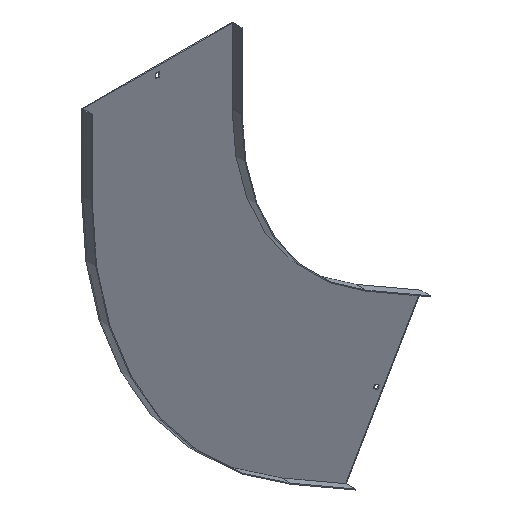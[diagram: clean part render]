
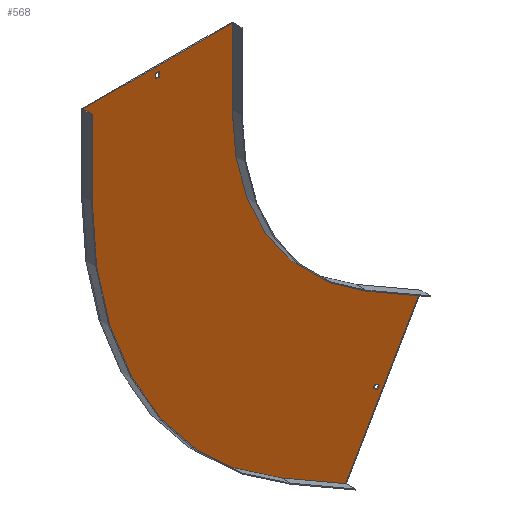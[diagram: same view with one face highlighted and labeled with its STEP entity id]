
A CAD part, isometric view. The second image highlights one B-rep face of the part: STEP entity #568.
In plain terms, the highlighted planar face has unit normal (0, -1, 0).
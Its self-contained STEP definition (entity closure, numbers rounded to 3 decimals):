
#1 = VECTOR ( 'NONE', #114, 1000. ) ;
#10 = DIRECTION ( 'NONE',  ( 0.5, 0., 0.866 ) ) ;
#14 = CARTESIAN_POINT ( 'NONE',  ( -323.375, -1.5, -560.102 ) ) ;
#19 = VECTOR ( 'NONE', #569, 1000. ) ;
#25 = AXIS2_PLACEMENT_3D ( 'NONE', #76, #202, #273 ) ;
#26 = EDGE_LOOP ( 'NONE', ( #756, #211, #372, #374 ) ) ;
#32 = VECTOR ( 'NONE', #814, 1000. ) ;
#44 = VERTEX_POINT ( 'NONE', #716 ) ;
#56 = ORIENTED_EDGE ( 'NONE', *, *, #774, .F. ) ;
#64 = CARTESIAN_POINT ( 'NONE',  ( -801.5, -1.5, 150. ) ) ;
#68 = DIRECTION ( 'NONE',  ( 1., 0., 0. ) ) ;
#72 = PLANE ( 'NONE',  #25 ) ;
#74 = CARTESIAN_POINT ( 'NONE',  ( 0., -1.5, 138. ) ) ;
#75 = VERTEX_POINT ( 'NONE', #513 ) ;
#76 = CARTESIAN_POINT ( 'NONE',  ( 0., -1.5, 0. ) ) ;
#81 = LINE ( 'NONE', #85, #396 ) ;
#83 = DIRECTION ( 'NONE',  ( 0., 0., -1. ) ) ;
#85 = CARTESIAN_POINT ( 'NONE',  ( 0., -1.5, 129. ) ) ;
#87 = EDGE_CURVE ( 'NONE', #648, #278, #783, .T. ) ;
#90 = CARTESIAN_POINT ( 'NONE',  ( -270.096, -1.5, -767.82 ) ) ;
#94 = EDGE_CURVE ( 'NONE', #430, #531, #181, .T. ) ;
#101 = VECTOR ( 'NONE', #436, 1000. ) ;
#111 = ORIENTED_EDGE ( 'NONE', *, *, #252, .T. ) ;
#114 = DIRECTION ( 'NONE',  ( 0.866, 0., -0.5 ) ) ;
#118 = EDGE_LOOP ( 'NONE', ( #528, #158, #125, #572, #746, #546, #56, #768 ) ) ;
#124 = CARTESIAN_POINT ( 'NONE',  ( -326.625, -1.5, -565.731 ) ) ;
#125 = ORIENTED_EDGE ( 'NONE', *, *, #309, .F. ) ;
#131 = EDGE_CURVE ( 'NONE', #148, #75, #144, .T. ) ;
#142 = DIRECTION ( 'NONE',  ( 0., 0., -1. ) ) ;
#144 = LINE ( 'NONE', #614, #190 ) ;
#146 = CARTESIAN_POINT ( 'NONE',  ( -211.658, -1.5, -624.602 ) ) ;
#148 = VERTEX_POINT ( 'NONE', #781 ) ;
#150 = VECTOR ( 'NONE', #268, 1000. ) ;
#158 = ORIENTED_EDGE ( 'NONE', *, *, #342, .F. ) ;
#168 = LINE ( 'NONE', #630, #207 ) ;
#172 = CARTESIAN_POINT ( 'NONE',  ( -646.75, -1.5, 129. ) ) ;
#178 = EDGE_CURVE ( 'NONE', #562, #430, #848, .T. ) ;
#181 = LINE ( 'NONE', #124, #1 ) ;
#190 = VECTOR ( 'NONE', #338, 1000. ) ;
#199 = CARTESIAN_POINT ( 'NONE',  ( -646.75, -1.5, 0. ) ) ;
#200 = VECTOR ( 'NONE', #745, 1000. ) ;
#202 = DIRECTION ( 'NONE',  ( 0., -1., 0. ) ) ;
#205 = FACE_OUTER_BOUND ( 'NONE', #118, .T. ) ;
#207 = VECTOR ( 'NONE', #300, 1000. ) ;
#211 = ORIENTED_EDGE ( 'NONE', *, *, #575, .F. ) ;
#230 = CARTESIAN_POINT ( 'NONE',  ( -800., -1.5, 0. ) ) ;
#245 = AXIS2_PLACEMENT_3D ( 'NONE', #673, #682, #83 ) ;
#252 = EDGE_CURVE ( 'NONE', #44, #771, #734, .T. ) ;
#260 = DIRECTION ( 'NONE',  ( 0., 0., -1. ) ) ;
#263 = VECTOR ( 'NONE', #10, 1000. ) ;
#264 = DIRECTION ( 'NONE',  ( -1., 0., 0. ) ) ;
#266 = EDGE_CURVE ( 'NONE', #771, #826, #665, .T. ) ;
#268 = DIRECTION ( 'NONE',  ( -0.866, 0., 0.5 ) ) ;
#269 = LINE ( 'NONE', #90, #200 ) ;
#273 = DIRECTION ( 'NONE',  ( 0., 0., -1. ) ) ;
#278 = VERTEX_POINT ( 'NONE', #541 ) ;
#300 = DIRECTION ( 'NONE',  ( 0., 0., -1. ) ) ;
#309 = EDGE_CURVE ( 'NONE', #369, #327, #520, .T. ) ;
#318 = VECTOR ( 'NONE', #452, 1000. ) ;
#325 = FACE_BOUND ( 'NONE', #713, .T. ) ;
#327 = VERTEX_POINT ( 'NONE', #230 ) ;
#335 = LINE ( 'NONE', #612, #263 ) ;
#338 = DIRECTION ( 'NONE',  ( -0.5, 0., -0.866 ) ) ;
#341 = LINE ( 'NONE', #14, #150 ) ;
#342 = EDGE_CURVE ( 'NONE', #327, #648, #581, .T. ) ;
#350 = CARTESIAN_POINT ( 'NONE',  ( -214.908, -1.5, -630.231 ) ) ;
#355 = VECTOR ( 'NONE', #142, 1000. ) ;
#369 = VERTEX_POINT ( 'NONE', #444 ) ;
#371 = CARTESIAN_POINT ( 'NONE',  ( -653.25, -1.5, 138. ) ) ;
#372 = ORIENTED_EDGE ( 'NONE', *, *, #94, .F. ) ;
#374 = ORIENTED_EDGE ( 'NONE', *, *, #178, .F. ) ;
#389 = EDGE_CURVE ( 'NONE', #278, #525, #168, .T. ) ;
#396 = VECTOR ( 'NONE', #264, 1000. ) ;
#397 = VERTEX_POINT ( 'NONE', #650 ) ;
#400 = CARTESIAN_POINT ( 'NONE',  ( -653.25, -1.5, 0. ) ) ;
#409 = LINE ( 'NONE', #199, #355 ) ;
#410 = CIRCLE ( 'NONE', #420, 500. ) ;
#420 = AXIS2_PLACEMENT_3D ( 'NONE', #657, #634, #260 ) ;
#427 = EDGE_CURVE ( 'NONE', #75, #369, #269, .T. ) ;
#430 = VERTEX_POINT ( 'NONE', #350 ) ;
#436 = DIRECTION ( 'NONE',  ( 0., 0., 1. ) ) ;
#444 = CARTESIAN_POINT ( 'NONE',  ( -400., -1.5, -692.82 ) ) ;
#450 = VERTEX_POINT ( 'NONE', #172 ) ;
#452 = DIRECTION ( 'NONE',  ( 0., 0., 1. ) ) ;
#489 = VERTEX_POINT ( 'NONE', #839 ) ;
#494 = CARTESIAN_POINT ( 'NONE',  ( -250., -1.5, -433.013 ) ) ;
#497 = LINE ( 'NONE', #494, #19 ) ;
#505 = DIRECTION ( 'NONE',  ( -0.5, 0., -0.866 ) ) ;
#507 = EDGE_CURVE ( 'NONE', #826, #450, #409, .T. ) ;
#510 = EDGE_CURVE ( 'NONE', #450, #44, #81, .T. ) ;
#513 = CARTESIAN_POINT ( 'NONE',  ( -270.096, -1.5, -767.82 ) ) ;
#520 = CIRCLE ( 'NONE', #245, 800. ) ;
#525 = VERTEX_POINT ( 'NONE', #679 ) ;
#528 = ORIENTED_EDGE ( 'NONE', *, *, #87, .F. ) ;
#531 = VERTEX_POINT ( 'NONE', #605 ) ;
#541 = CARTESIAN_POINT ( 'NONE',  ( -500., -1.5, 150. ) ) ;
#543 = CARTESIAN_POINT ( 'NONE',  ( -800., -1.5, 150. ) ) ;
#546 = ORIENTED_EDGE ( 'NONE', *, *, #677, .F. ) ;
#562 = VERTEX_POINT ( 'NONE', #146 ) ;
#568 = ADVANCED_FACE ( 'NONE', ( #796, #205, #325 ), #72, .T. ) ;
#569 = DIRECTION ( 'NONE',  ( 0.866, 0., -0.5 ) ) ;
#572 = ORIENTED_EDGE ( 'NONE', *, *, #427, .F. ) ;
#575 = EDGE_CURVE ( 'NONE', #531, #489, #335, .T. ) ;
#581 = LINE ( 'NONE', #626, #101 ) ;
#583 = CARTESIAN_POINT ( 'NONE',  ( 111.717, -1.5, -64.5 ) ) ;
#605 = CARTESIAN_POINT ( 'NONE',  ( -207.113, -1.5, -634.731 ) ) ;
#612 = CARTESIAN_POINT ( 'NONE',  ( 119.512, -1.5, -69. ) ) ;
#614 = CARTESIAN_POINT ( 'NONE',  ( -119.346, -1.5, -506.714 ) ) ;
#624 = ORIENTED_EDGE ( 'NONE', *, *, #266, .T. ) ;
#626 = CARTESIAN_POINT ( 'NONE',  ( -800., -1.5, 0. ) ) ;
#630 = CARTESIAN_POINT ( 'NONE',  ( -500., -1.5, 150. ) ) ;
#634 = DIRECTION ( 'NONE',  ( 0., -1., 0. ) ) ;
#643 = EDGE_CURVE ( 'NONE', #489, #562, #341, .T. ) ;
#648 = VERTEX_POINT ( 'NONE', #543 ) ;
#650 = CARTESIAN_POINT ( 'NONE',  ( -250., -1.5, -433.013 ) ) ;
#657 = CARTESIAN_POINT ( 'NONE',  ( 0., -1.5, 0. ) ) ;
#665 = LINE ( 'NONE', #74, #32 ) ;
#673 = CARTESIAN_POINT ( 'NONE',  ( 0., -1.5, 0. ) ) ;
#677 = EDGE_CURVE ( 'NONE', #397, #148, #497, .T. ) ;
#679 = CARTESIAN_POINT ( 'NONE',  ( -500., -1.5, 0. ) ) ;
#682 = DIRECTION ( 'NONE',  ( 0., 1., 0. ) ) ;
#692 = ORIENTED_EDGE ( 'NONE', *, *, #510, .T. ) ;
#713 = EDGE_LOOP ( 'NONE', ( #624, #835, #692, #111 ) ) ;
#716 = CARTESIAN_POINT ( 'NONE',  ( -653.25, -1.5, 129. ) ) ;
#734 = LINE ( 'NONE', #400, #318 ) ;
#745 = DIRECTION ( 'NONE',  ( -0.866, 0., 0.5 ) ) ;
#746 = ORIENTED_EDGE ( 'NONE', *, *, #131, .F. ) ;
#751 = VECTOR ( 'NONE', #68, 1000. ) ;
#756 = ORIENTED_EDGE ( 'NONE', *, *, #643, .F. ) ;
#768 = ORIENTED_EDGE ( 'NONE', *, *, #389, .F. ) ;
#771 = VERTEX_POINT ( 'NONE', #371 ) ;
#774 = EDGE_CURVE ( 'NONE', #525, #397, #410, .T. ) ;
#781 = CARTESIAN_POINT ( 'NONE',  ( -120.096, -1.5, -508.013 ) ) ;
#783 = LINE ( 'NONE', #64, #751 ) ;
#791 = VECTOR ( 'NONE', #505, 1000. ) ;
#796 = FACE_BOUND ( 'NONE', #26, .T. ) ;
#814 = DIRECTION ( 'NONE',  ( 1., 0., 0. ) ) ;
#826 = VERTEX_POINT ( 'NONE', #837 ) ;
#835 = ORIENTED_EDGE ( 'NONE', *, *, #507, .T. ) ;
#837 = CARTESIAN_POINT ( 'NONE',  ( -646.75, -1.5, 138. ) ) ;
#839 = CARTESIAN_POINT ( 'NONE',  ( -203.863, -1.5, -629.102 ) ) ;
#848 = LINE ( 'NONE', #583, #791 ) ;
